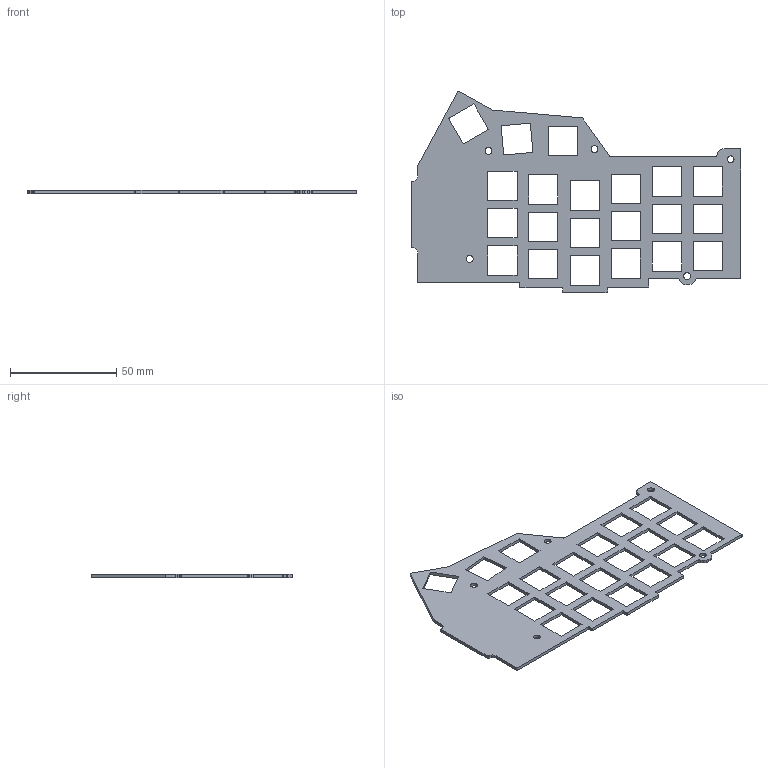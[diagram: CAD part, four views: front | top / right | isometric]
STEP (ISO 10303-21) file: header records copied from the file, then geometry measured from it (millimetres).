
FILE_DESCRIPTION(('Keyboard Case Plate - right_switch_plate'),'2;1');
FILE_NAME('right_switch_plate.stp','2025-01-01T00:00:00',(''),(''),'','','');
FILE_SCHEMA(('AUTOMOTIVE_DESIGN { 1 0 10303 214 1 1 1 1 }'));
Length unit declared in the file: millimetre
Products named in the file (1): right_switch_plate
Bounding box: 154.75 x 94.95 x 1.5 mm (x, y, z)
Surface area: 16241.5 mm2 (no closed solid volume)
Topology: 0 solids, 273 shells, 273 faces, 1616 edges, 1616 vertices
Faces by surface type: plane 263, cylinder 10
Entity records: 15264 total; most frequent: CARTESIAN_POINT 3506, DIRECTION 2194, VERTEX_POINT 1616, EDGE_CURVE 1616, ORIENTED_EDGE 1616, VECTOR 1586, LINE 1586, EDGE_LOOP 325
